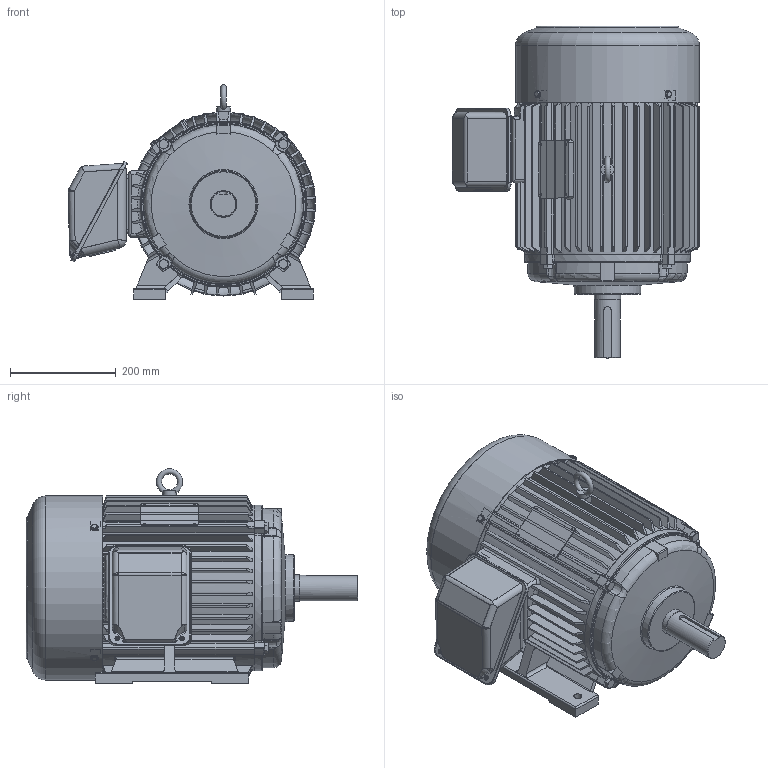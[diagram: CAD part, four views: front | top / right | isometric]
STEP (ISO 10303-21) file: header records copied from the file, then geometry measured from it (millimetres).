
FILE_DESCRIPTION(/* description */ ('Unknown'),/* implementation_level */ '2;1');
FILE_NAME(/* name */ '1-SMA-31986_외형도(300DIA)',/* time_stamp */ '2026-07-24T08:19:17+09:00',/* author */ ('Unknown'),/* organization */ ('Unknown'),/* preprocessor_version */ 'ST-DEVELOPER v16',/* originating_system */ 'DEX',/* authorisation */ $);
FILE_SCHEMA (('AUTOMOTIVE_DESIGN {1 0 10303 214 3 1 1}'));
Products named in the file (21): 1-SMA-31986_寇屈档(300DI; 2-SMA-30955_FRAME(300DIA); 3-SMA-30956_擅粽塭鰍(300D; 4-SMA-30957_菴粽塭鰍(300D; 5-SMA-30958_SHAFT(300DIA); 6-SMA-31246_FAN(300DIA); 7-SMA-30959_FAN COVER(300DIA); I獐お M12x1.75x22f趡; 葬漯 2.3x4x4L; 貲っ 108x79; 幫陝 M6x1x10orea.949; 幫陝獐お M10x1.5x; 6310ZZ; 6309ZZ; 18.5~37kW_攪嘐割 夢蝶(300~330; T-BOX憶っ(300~330DIA; 18.5~37kW_堅鼠ぬ韁(300~330D; 褊濠 菅斬 該葬 獐お M5x; 9-SMA-33053_T-BOX(ж); 8-SMA-33052_T-BOX(鼻); 蹴辨 S4
Assembly tree (34 placements, depth 3):
  1-SMA-31986_寇屈档(300DI
    2-SMA-30955_FRAME(300DIA)
    3-SMA-30956_擅粽塭鰍(300D
    4-SMA-30957_菴粽塭鰍(300D
    5-SMA-30958_SHAFT(300DIA)
    6-SMA-31246_FAN(300DIA)
    7-SMA-30959_FAN COVER(300DIA)
    I獐お M12x1.75x22f趡
    葬漯 2.3x4x4L  x4
    貲っ 108x79
    幫陝 M6x1x10orea.949  x4
    幫陝獐お M10x1.5x  x8
    6310ZZ
    6309ZZ
    18.5~37kW_攪嘐割 夢蝶(300~330
      T-BOX憶っ(300~330DIA
      18.5~37kW_堅鼠ぬ韁(300~330D
      褊濠 菅斬 該葬 獐お M5x  x2
      9-SMA-33053_T-BOX(ж)
      8-SMA-33052_T-BOX(鼻)
    蹴辨 S4
Bounding box: 467.41 x 626.99 x 405.5 mm (x, y, z)
Volume: 8256240.7 mm3; surface area: 2754837.1 mm2
Topology: 55 solids, 55 shells, 2237 faces, 5753 edges, 3612 vertices
Faces by surface type: plane 740, cylinder 588, cone 339, bspline 312, torus 214, sphere 44
Full cylindrical faces by diameter (mm): 2.2 x8, 2.3 x4, 2.5 x2, 4.134 x2, 4.917 x2, 5 x2, 6 x10, 6.647 x4, 7 x2, 8 x6, 8.376 x16, 9 x2, 10 x16, 10.106 x1, 12 x10, 14 x4, 15 x4, 25 x1, 40 x2, 44.7 x1, 45 x2, 45.8 x1, 48 x1, 49.7 x1, 50 x4, 50.8 x1, 55.1 x1, 58 x1, 59 x1, 60.714 x2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
Entity records: 94161 total; most frequent: CARTESIAN_POINT 43573, ORIENTED_EDGE 9808, DIRECTION 8671, EDGE_CURVE 4904, AXIS2_PLACEMENT_3D 3560, VERTEX_POINT 3232, FACE_BOUND 2436, EDGE_LOOP 2407
